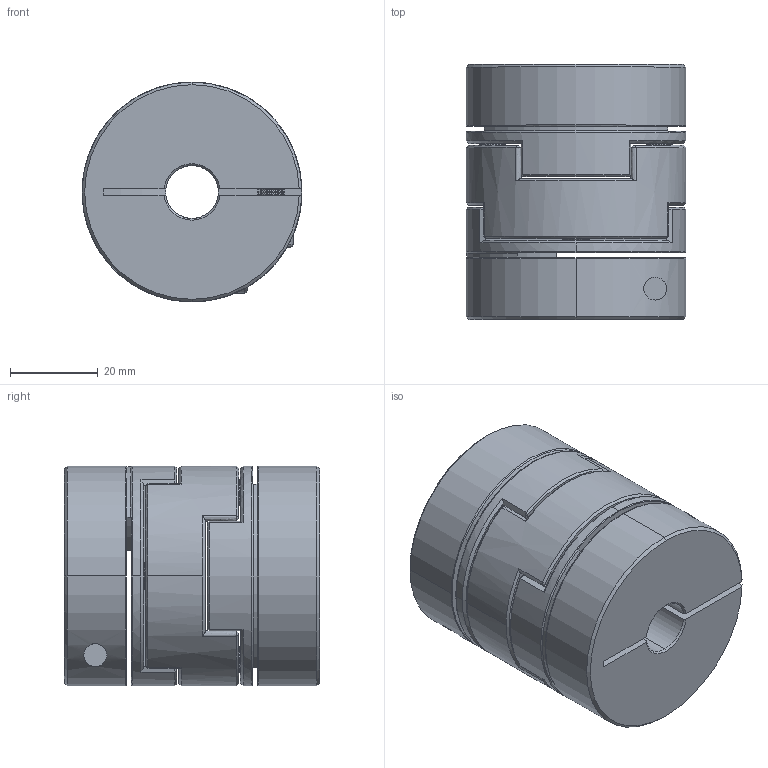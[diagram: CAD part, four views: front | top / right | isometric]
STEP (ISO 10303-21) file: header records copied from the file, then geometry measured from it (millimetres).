
FILE_DESCRIPTION (( 'STEP AP203' ), '1' );
FILE_NAME ('LZ-B-D50L58-12-16.STEP', '2021-10-29T07:27:29', ( '' ), ( '' ), 'SwSTEP 2.0', 'SolidWorks 2018', '' );
FILE_SCHEMA (( 'CONFIG_CONTROL_DESIGN' ));
Length unit declared in the file: millimetre
Products named in the file (1): LZ-B-D50L58-12-16
Bounding box: 50 x 58 x 50 mm (x, y, z)
Volume: 95266.9 mm3; surface area: 30203.6 mm2
Topology: 1 solids, 27 shells, 560 faces, 1364 edges, 810 vertices
Faces by surface type: cone 252, cylinder 160, plane 90, bspline 54, torus 4
Entity records: 17422 total; most frequent: CARTESIAN_POINT 4342, DIRECTION 2782, ORIENTED_EDGE 2720, EDGE_CURVE 1360, AXIS2_PLACEMENT_3D 1123, VERTEX_POINT 810, CIRCLE 616, EDGE_LOOP 594
